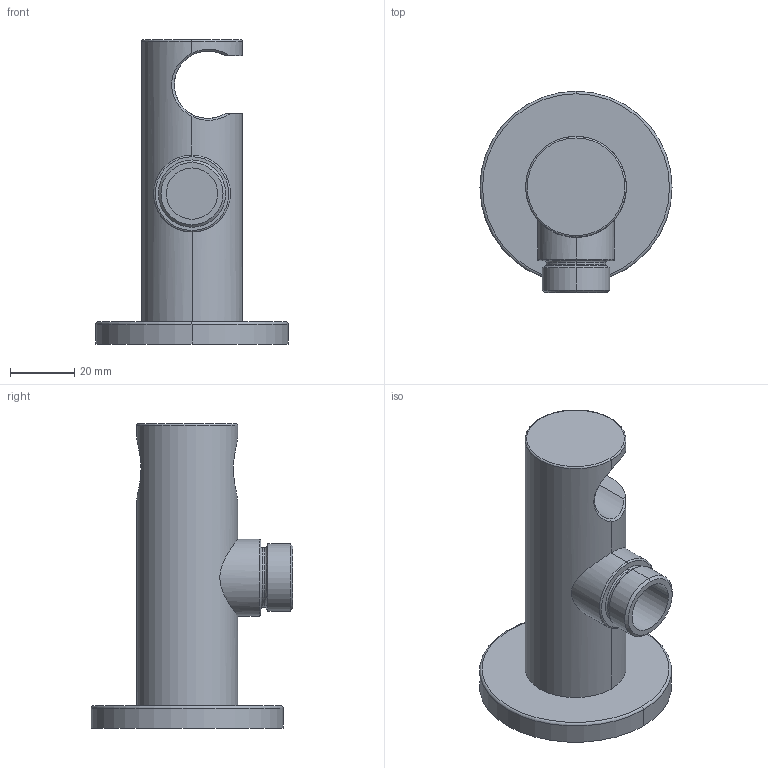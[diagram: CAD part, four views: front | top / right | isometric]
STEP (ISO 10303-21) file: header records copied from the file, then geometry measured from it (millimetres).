
FILE_DESCRIPTION((''),'2;1');
FILE_NAME('122542','2020-03-16T10:22:03',('LF994'),(''),'CREO PARAMETRIC BY PTC INC, 2018500','CREO PARAMETRIC BY PTC INC, 2018500','');
FILE_SCHEMA(('CONFIG_CONTROL_DESIGN'));
Length unit declared in the file: millimetre
Products named in the file (1): 122542
Bounding box: 60 x 63 x 95 mm (x, y, z)
Volume: 79080.8 mm3; surface area: 18981.6 mm2
Topology: 1 solids, 1 shells, 42 faces, 89 edges, 52 vertices
Faces by surface type: cylinder 14, torus 10, plane 8, bspline 6, cone 4
Entity records: 1581 total; most frequent: CARTESIAN_POINT 657, DIRECTION 189, ORIENTED_EDGE 178, EDGE_CURVE 89, AXIS2_PLACEMENT_3D 82, VERTEX_POINT 52, CIRCLE 46, EDGE_LOOP 45
